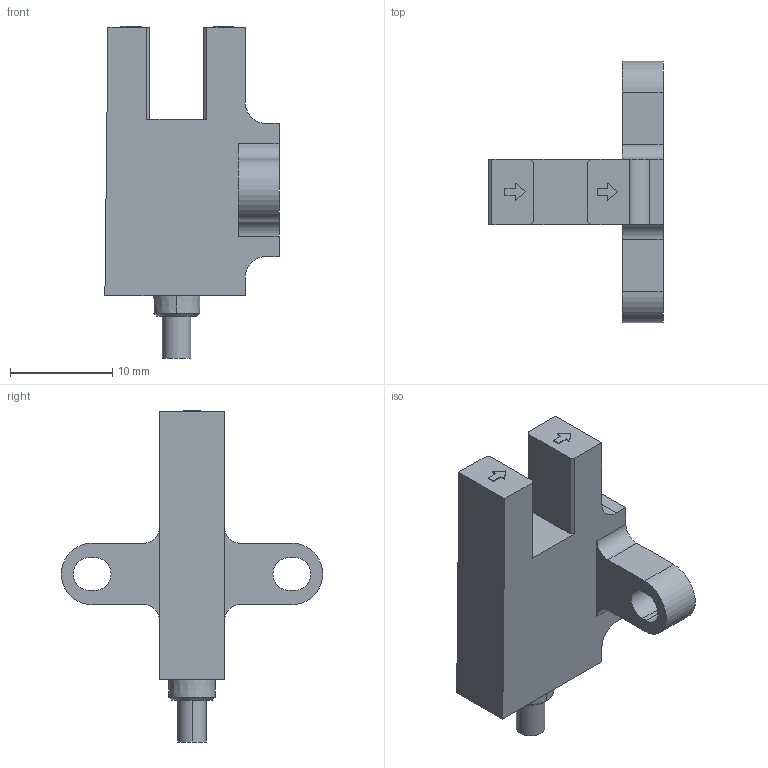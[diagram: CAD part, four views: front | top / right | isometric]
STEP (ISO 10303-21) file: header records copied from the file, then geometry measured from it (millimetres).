
FILE_DESCRIPTION((''),'2;1');
FILE_NAME('675_ASM_ASM','2018-07-16T14:12:12',('Administrator'),(''),'CREO PARAMETRIC BY PTC INC, 2016390','CREO PARAMETRIC BY PTC INC, 2016390','');
FILE_SCHEMA(('CONFIG_CONTROL_DESIGN'));
Length unit declared in the file: millimetre
Products named in the file (4): 675_32; A2_71_9; 67500_ASM_6_ASM; 675_ASM_ASM
Assembly tree (3 placements, depth 3):
  675_ASM_ASM
    67500_ASM_6_ASM
      675_32
      A2_71_9
Bounding box: 17 x 25.5 x 32.4 mm (x, y, z)
Volume: 1212.3 mm3; surface area: 3051.6 mm2
Topology: 3 solids, 3 shells, 127 faces, 358 edges, 242 vertices
Faces by surface type: plane 101, cylinder 22, cone 4
Entity records: 4230 total; most frequent: CARTESIAN_POINT 736, ORIENTED_EDGE 716, DIRECTION 700, EDGE_CURVE 358, VECTOR 288, LINE 288, VERTEX_POINT 242, AXIS2_PLACEMENT_3D 206
